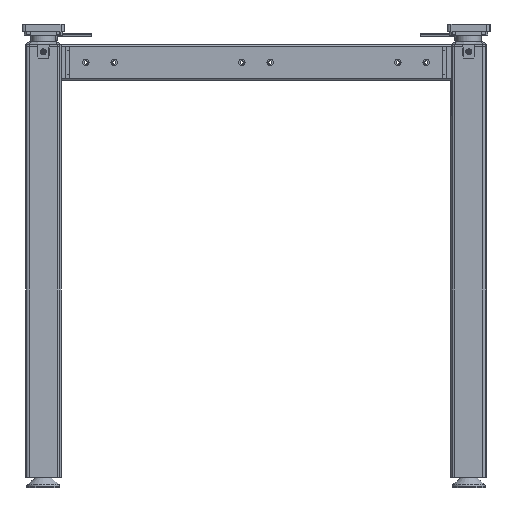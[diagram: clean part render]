
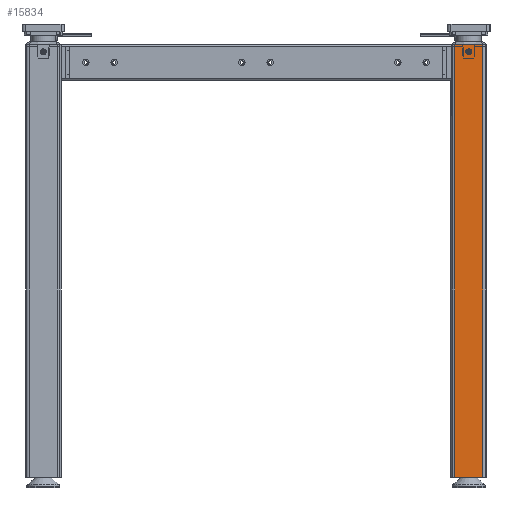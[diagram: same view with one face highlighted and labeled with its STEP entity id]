
A CAD part, front view. The second image highlights one B-rep face of the part: STEP entity #15834.
In plain terms, the highlighted planar face has unit normal (0, -1, 0) as drawn and (1, 0, 0) by its records, which use the part's own axes.
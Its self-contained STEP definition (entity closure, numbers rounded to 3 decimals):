
#715=LINE('',#27601,#1632);
#721=LINE('',#27628,#1638);
#729=LINE('',#27654,#1646);
#730=LINE('',#27656,#1647);
#1632=VECTOR('',#22718,1000.);
#1638=VECTOR('',#22742,1000.);
#1646=VECTOR('',#22770,1000.);
#1647=VECTOR('',#22773,1000.);
#3096=PLANE('',#20432);
#3879=ORIENTED_EDGE('',*,*,#7955,.T.);
#3880=ORIENTED_EDGE('',*,*,#7970,.F.);
#3881=ORIENTED_EDGE('',*,*,#7942,.F.);
#3882=ORIENTED_EDGE('',*,*,#7969,.T.);
#3883=ORIENTED_EDGE('',*,*,#7971,.T.);
#7942=EDGE_CURVE('',#10061,#10062,#715,.T.);
#7955=EDGE_CURVE('',#10074,#10073,#721,.T.);
#7969=EDGE_CURVE('',#10061,#10074,#729,.T.);
#7970=EDGE_CURVE('',#10062,#10073,#730,.T.);
#7971=EDGE_CURVE('',#10082,#10082,#11487,.T.);
#10061=VERTEX_POINT('',#27600);
#10062=VERTEX_POINT('',#27602);
#10073=VERTEX_POINT('',#27627);
#10074=VERTEX_POINT('',#27629);
#10082=VERTEX_POINT('',#27658);
#11487=CIRCLE('',#20433,4.15);
#12435=EDGE_LOOP('',(#3879,#3880,#3881,#3882));
#12436=EDGE_LOOP('',(#3883));
#14004=FACE_BOUND('',#12435,.T.);
#14005=FACE_BOUND('',#12436,.T.);
#15834=ADVANCED_FACE('',(#14004,#14005),#3096,.F.);
#20432=AXIS2_PLACEMENT_3D('',#27655,#22771,#22772);
#20433=AXIS2_PLACEMENT_3D('',#27657,#22774,#22775);
#22718=DIRECTION('',(0.,0.,-1.));
#22742=DIRECTION('',(0.,0.,-1.));
#22770=DIRECTION('',(0.,-1.,0.));
#22771=DIRECTION('',(-1.,0.,0.));
#22772=DIRECTION('',(0.,1.,0.));
#22773=DIRECTION('',(0.,-1.,0.));
#22774=DIRECTION('',(-1.,0.,0.));
#22775=DIRECTION('',(0.,0.,1.));
#27600=CARTESIAN_POINT('',(40.,610.,20.));
#27601=CARTESIAN_POINT('',(40.,610.,-20.));
#27602=CARTESIAN_POINT('',(40.,610.,-20.));
#27627=CARTESIAN_POINT('',(40.,0.,-20.));
#27628=CARTESIAN_POINT('',(40.,0.,-20.));
#27629=CARTESIAN_POINT('',(40.,0.,20.));
#27654=CARTESIAN_POINT('',(40.,610.,20.));
#27655=CARTESIAN_POINT('',(40.,610.,-20.));
#27656=CARTESIAN_POINT('',(40.,610.,-20.));
#27657=CARTESIAN_POINT('',(40.,600.,0.));
#27658=CARTESIAN_POINT('',(40.,600.,4.15));
